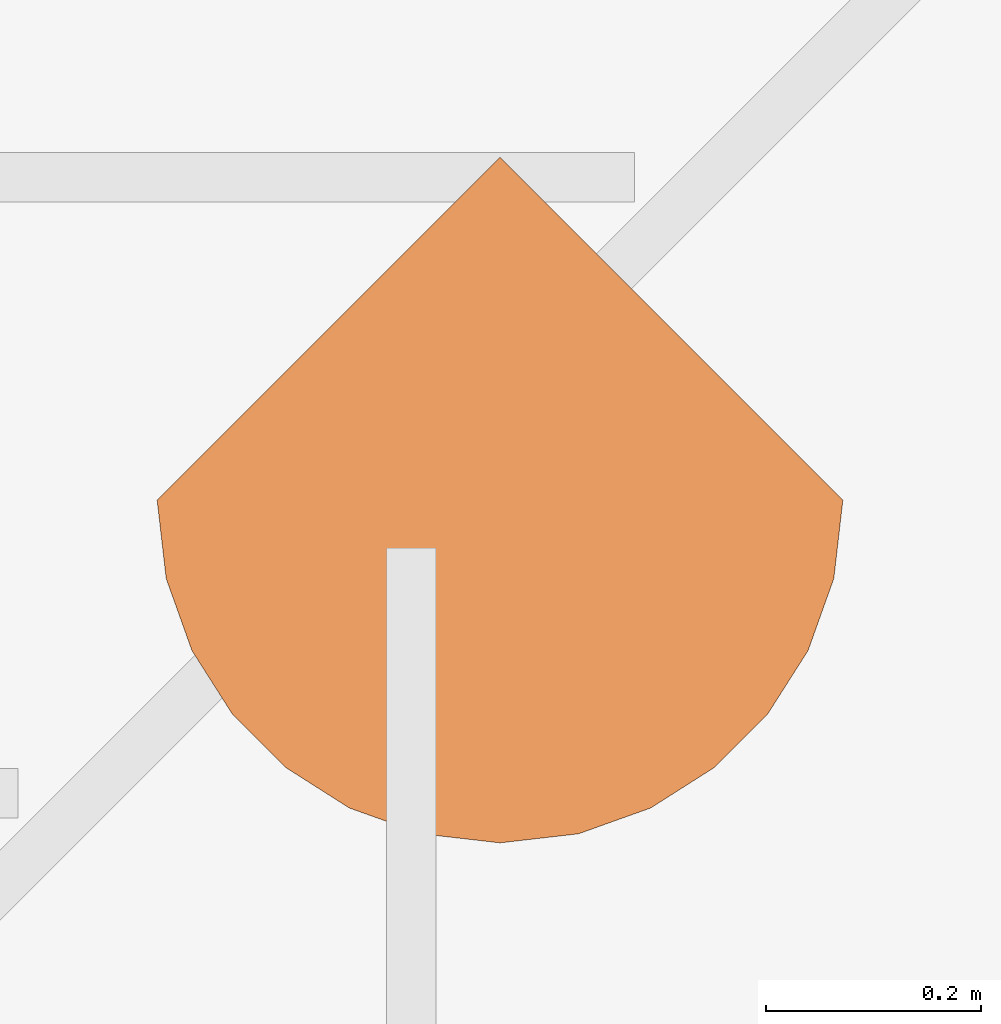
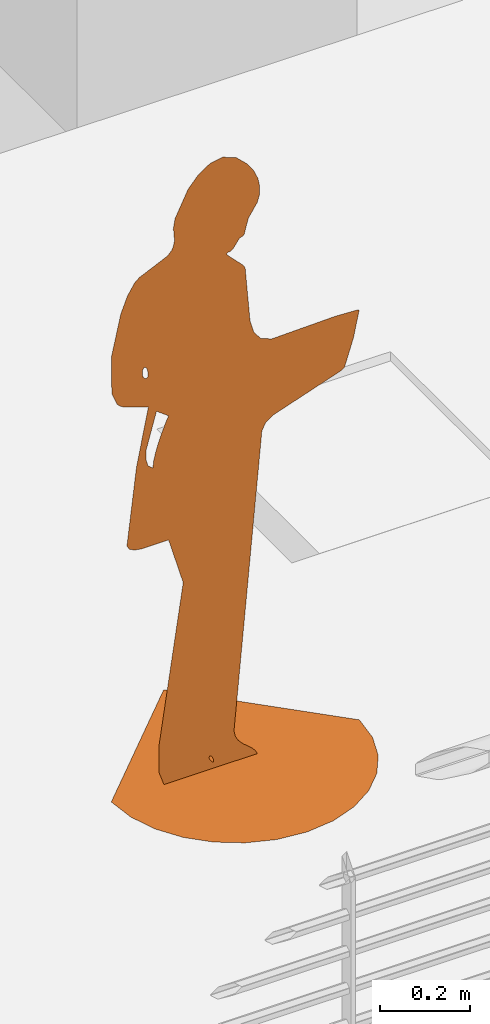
# One storey, part 13 of 15: 1 proxy.
"""IFC2X3 building model written with IfcOpenShell, lengths in metres."""

import ifcopenshell
import ifcopenshell.guid

model = None  # the IFC model being written
_history = None  # IfcOwnerHistory: only IFC2X3 demands one
_inside = {}  # id of a spatial element -> (the spatial element, [elements in it])
_under = {}  # id of a project, library or spatial element -> (it, [spatial elements below it])
_declared = {}  # id of a project -> (the project, [libraries it declares])
_typed = {}  # id of a type object -> (the type object, [elements of that type])
_made_of = {}  # id of a material, layer set ... -> (it, [elements and type objects made of it])


def new_model(schema):
    """Start an empty IFC model of exactly this schema.

    Asked for "IFC4X3", IfcOpenShell would pick the latest addendum, in which some entities
    have other attributes; the version numbers below select the first issue.
    IFC2X3 requires an IfcOwnerHistory on every rooted entity: one is made here for all.
    """
    global model, _history
    if schema == "IFC4X3":
        model = ifcopenshell.file(schema_version=(4, 3, 0, 0))
    else:
        model = ifcopenshell.file(schema=schema)
    _inside.clear()
    _under.clear()
    _declared.clear()
    _typed.clear()
    _made_of.clear()
    _history = None
    if model.schema == "IFC2X3":
        org = make("IfcOrganization", Name="unknown")
        user = make(
            "IfcPersonAndOrganization",
            ThePerson=make("IfcPerson", FamilyName="unknown"),
            TheOrganization=org,
        )
        app = make(
            "IfcApplication",
            ApplicationDeveloper=org,
            Version="unknown",
            ApplicationFullName="unknown",
            ApplicationIdentifier="unknown",
        )
        _history = make(
            "IfcOwnerHistory",
            OwningUser=user,
            OwningApplication=app,
            ChangeAction="ADDED",
            CreationDate=0,
        )
    return model


def make(cls, **values):
    """One entity of the class cls with the attributes given. An attribute that is None is left unset."""
    return model.create_entity(
        cls, **{name: value for name, value in values.items() if value is not None}
    )


def entity(cls, *values):
    """Any entity or typed value of the class cls, its attributes in the order of the schema. None: left unset."""
    e = model.create_entity(cls)
    for i, value in enumerate(values):
        if value is not None:
            e[i] = value
    return e


def rooted(cls, **values):
    """An entity with a GlobalId (a new one), such as an element, a storey or a relation."""
    return make(cls, GlobalId=ifcopenshell.guid.new(), OwnerHistory=_history, **values)


def si_unit(unit_type, name, prefix=None):
    """IfcSIUnit, for example si_unit("LENGTHUNIT", "METRE", prefix="MILLI")."""
    return make("IfcSIUnit", UnitType=unit_type, Prefix=prefix, Name=name)


def converted_unit(unit_type, name, factor, base, dimensions=None, offset=None):
    """IfcConversionBasedUnit, such as the inch: factor (a typed value) times the base unit."""
    return make(
        "IfcConversionBasedUnit"
        if offset is None
        else "IfcConversionBasedUnitWithOffset",
        ConversionOffset=offset,
        Dimensions=None
        if dimensions is None
        else entity("IfcDimensionalExponents", *dimensions),
        UnitType=unit_type,
        Name=name,
        ConversionFactor=make(
            "IfcMeasureWithUnit", ValueComponent=factor, UnitComponent=base
        ),
    )


def derived_unit(unit_type, elements):
    """IfcDerivedUnit: a product of units, each with its exponent."""
    return make(
        "IfcDerivedUnit",
        Elements=[
            make("IfcDerivedUnitElement", Unit=unit, Exponent=power)
            for unit, power in elements
        ],
        UnitType=unit_type,
    )


def assignment(units):
    """IfcUnitAssignment: the units of a project."""
    return None if units is None else make("IfcUnitAssignment", Units=units)


def point(xyz):
    """IfcCartesianPoint."""
    return None if xyz is None else make("IfcCartesianPoint", Coordinates=xyz)


def direction(xyz):
    """IfcDirection."""
    return None if xyz is None else make("IfcDirection", DirectionRatios=xyz)


def frame(location, z_axis=None, x_axis=None):
    """IfcAxis2Placement3D, a coordinate frame: its origin and axes. An axis left out is left unset."""
    return make(
        "IfcAxis2Placement3D",
        Location=point(location),
        Axis=direction(z_axis),
        RefDirection=direction(x_axis),
    )


def origin():
    """The frame at (0, 0, 0) with its axes left unset."""
    return frame((0.0, 0.0, 0.0))


def place(relative_to, where):
    """IfcLocalPlacement: puts the frame where relative to a parent placement (None: the world)."""
    return make(
        "IfcLocalPlacement", PlacementRelTo=relative_to, RelativePlacement=where
    )


def context(
    kind, dimensions, precision=None, world=None, true_north=None, identifier=None
):
    """IfcGeometricRepresentationContext, for example the 3D "Model" context."""
    return make(
        "IfcGeometricRepresentationContext",
        ContextIdentifier=identifier,
        ContextType=kind,
        CoordinateSpaceDimension=dimensions,
        Precision=precision,
        WorldCoordinateSystem=world,
        TrueNorth=true_north,
    )


def subcontext(parent, identifier, kind, view, scale=None):
    """IfcGeometricRepresentationSubContext, for example "Body" below "Model"."""
    return make(
        "IfcGeometricRepresentationSubContext",
        ContextIdentifier=identifier,
        ContextType=kind,
        ParentContext=parent,
        TargetScale=scale,
        TargetView=view,
    )


def project(units=None, contexts=None):
    """IfcProject with its units and contexts."""
    return rooted(
        "IfcProject",
        Name="project",
        RepresentationContexts=contexts,
        UnitsInContext=assignment(units),
    )


def spatial(cls, under=None, at=None, **own):
    """A site, building, storey or space (cls), placed at a placement, below another one or the project."""
    s = rooted(cls, ObjectPlacement=at, **own)
    if under is not None:
        _under.setdefault(under.id(), (under, []))[1].append(s)
    return s


def faces_of(points, faces, orient=None, outer=None):
    """IfcFace entities. A face is a list of loops; a loop is a list of indices into points, from 0.

    orient and outer hold one flag for each loop. By default every Orientation is true, the
    first loop of a face is its IfcFaceOuterBound and the others are IfcFaceBound.
    """
    made = []
    for i, loops in enumerate(faces):
        bounds = []
        for j, loop in enumerate(loops):
            is_outer = j == 0 if outer is None else outer[i][j]
            bounds.append(
                make(
                    "IfcFaceOuterBound" if is_outer else "IfcFaceBound",
                    Bound=make("IfcPolyLoop", Polygon=[points[k] for k in loop]),
                    Orientation=True if orient is None else orient[i][j],
                )
            )
        made.append(make("IfcFace", Bounds=bounds))
    return made


def face_set(faces, orient=None, outer=None):
    """The faces of one IfcConnectedFaceSet. surface_model builds it on its shared points."""
    return ("IfcConnectedFaceSet", faces, orient, outer)


def surface_model(cls, points, shells):
    """IfcFaceBasedSurfaceModel or IfcShellBasedSurfaceModel (cls): surfaces that need not close."""
    shared = [point(p) for p in points]
    made = [make(c, CfsFaces=faces_of(shared, fs, o, b)) for c, fs, o, b in shells]
    if cls == "IfcFaceBasedSurfaceModel":
        return make(cls, FbsmFaces=made)
    return make(cls, SbsmBoundary=made)


def shape(context_of_items, identifier, shape_type, items):
    """IfcShapeRepresentation: the items that make up one representation, for example the "Body"."""
    return make(
        "IfcShapeRepresentation",
        ContextOfItems=context_of_items,
        RepresentationIdentifier=identifier,
        RepresentationType=shape_type,
        Items=items,
    )


def source(mapping_origin, context_of_items, identifier, shape_type, items):
    """IfcRepresentationMap: a shape defined once, which mapped items show again and again."""
    return make(
        "IfcRepresentationMap",
        MappingOrigin=mapping_origin,
        MappedRepresentation=shape(context_of_items, identifier, shape_type, items),
    )


def transform(
    local_origin,
    x_axis=None,
    y_axis=None,
    z_axis=None,
    scale=None,
    scale2=None,
    scale3=None,
    uniform=True,
):
    """IfcCartesianTransformationOperator3D, or its non-uniform kind. x_axis, y_axis, z_axis: its Axis1, 2, 3."""
    if uniform:
        return make(
            "IfcCartesianTransformationOperator3D",
            Axis1=direction(x_axis),
            Axis2=direction(y_axis),
            LocalOrigin=point(local_origin),
            Scale=scale,
            Axis3=direction(z_axis),
        )
    return make(
        "IfcCartesianTransformationOperator3DnonUniform",
        Axis1=direction(x_axis),
        Axis2=direction(y_axis),
        LocalOrigin=point(local_origin),
        Scale=scale,
        Axis3=direction(z_axis),
        Scale2=scale2,
        Scale3=scale3,
    )


def mapped(mapping_source, mapping_target):
    """IfcMappedItem: shows the shape of a source again, moved by a transform."""
    return make(
        "IfcMappedItem", MappingSource=mapping_source, MappingTarget=mapping_target
    )


def material(Name=None, Category=None):
    """IfcMaterial."""
    return make("IfcMaterial", Name=Name, Category=Category)


def made_of(thing, what):
    """Note that an element or type object is made of a material, layer set ...; save() writes the relation."""
    if what is not None:
        _made_of.setdefault(what.id(), (what, []))[1].append(thing)
    return thing


def type_object(cls, material=None, **own):
    """A type object (cls), such as IfcWallType, which elements share."""
    return made_of(rooted(cls, **own), material)


def type_shapes(of_type, sources):
    """Give a type object the sources (RepresentationMaps) that its elements show as mapped items."""
    of_type.RepresentationMaps = sources


def element(
    cls,
    number,
    at=None,
    inside=None,
    cuts=None,
    type_object=None,
    material=None,
    context=None,
    identifier="Body",
    shape_type=None,
    held_by="IfcProductDefinitionShape",
    body=None,
    shapes=None,
    **own,
):
    """One element of the class cls, such as IfcWall. Its Tag is "e" and its number.

    at: its placement. inside: the storey or other place that contains it. cuts: it is an
    opening in that element (IfcRelVoidsElement). A single representation is given by context,
    identifier, shape_type and body (its items); several are given by shapes. held_by: the class
    of the entity that holds the representations. save() writes the other relations.
    """
    e = rooted(cls, Tag="e%d" % number, ObjectPlacement=at, **own)
    if body is not None:
        shapes = [shape(context, identifier, shape_type, body)]
    if shapes is not None:
        e.Representation = make(held_by, Representations=shapes)
    if inside is not None:
        _inside.setdefault(inside.id(), (inside, []))[1].append(e)
    if cuts is not None:
        rooted(
            "IfcRelVoidsElement", RelatingBuildingElement=cuts, RelatedOpeningElement=e
        )
    if type_object is not None:
        _typed.setdefault(type_object.id(), (type_object, []))[1].append(e)
    return made_of(e, material)


def aggregate(whole, parts):
    """IfcRelAggregates: a whole, such as a stair, and the parts it consists of."""
    return rooted("IfcRelAggregates", RelatingObject=whole, RelatedObjects=parts)


def save(model, path):
    """Write the relations noted so far, then the file.

    IfcRelAggregates (storeys below a building ...), IfcRelContainedInSpatialStructure (elements
    in a storey), IfcRelDefinesByType, IfcRelAssociatesMaterial and IfcRelDeclares: one each for
    every whole, place, type object, material and project.
    """
    for whole, parts in _under.values():
        aggregate(whole, parts)
    for where, things in _inside.values():
        rooted(
            "IfcRelContainedInSpatialStructure",
            RelatedElements=things,
            RelatingStructure=where,
        )
    for kind, things in _typed.values():
        rooted("IfcRelDefinesByType", RelatedObjects=things, RelatingType=kind)
    for what, things in _made_of.values():
        rooted("IfcRelAssociatesMaterial", RelatedObjects=things, RelatingMaterial=what)
    for by, libraries in _declared.values():
        rooted("IfcRelDeclares", RelatingContext=by, RelatedDefinitions=libraries)
    model.write(path)


model = new_model("IFC2X3")

# Units and contexts
model_context = context("Model", 3, precision=1e-05, world=origin(), true_north=direction((6.12303176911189e-17, 1.0)))
body_context = subcontext(model_context, "Body", "Model", "MODEL_VIEW")
ifc_project = project(units=[si_unit("LENGTHUNIT", "METRE"), si_unit("AREAUNIT", "SQUARE_METRE"), si_unit("VOLUMEUNIT", "CUBIC_METRE"), converted_unit("PLANEANGLEUNIT", "DEGREE", entity("IfcRatioMeasure", 0.0174532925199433), si_unit("PLANEANGLEUNIT", "RADIAN"), dimensions=[0, 0, 0, 0, 0, 0, 0]), si_unit("MASSUNIT", "GRAM", prefix="KILO"), derived_unit("MASSDENSITYUNIT", [(si_unit("MASSUNIT", "GRAM", prefix="KILO"), 1), (si_unit("LENGTHUNIT", "METRE"), -3)]), derived_unit("MOMENTOFINERTIAUNIT", [(si_unit("LENGTHUNIT", "METRE"), 4)]), si_unit("TIMEUNIT", "SECOND"), si_unit("FREQUENCYUNIT", "HERTZ"), si_unit("THERMODYNAMICTEMPERATUREUNIT", "DEGREE_CELSIUS"), derived_unit("THERMALTRANSMITTANCEUNIT", [(si_unit("MASSUNIT", "GRAM", prefix="KILO"), 1), (si_unit("THERMODYNAMICTEMPERATUREUNIT", "KELVIN"), -1), (si_unit("TIMEUNIT", "SECOND"), -3)]), derived_unit("VOLUMETRICFLOWRATEUNIT", [(si_unit("LENGTHUNIT", "METRE"), 3), (si_unit("TIMEUNIT", "SECOND"), -1)]), si_unit("ELECTRICCURRENTUNIT", "AMPERE"), si_unit("ELECTRICVOLTAGEUNIT", "VOLT"), si_unit("POWERUNIT", "WATT"), si_unit("FORCEUNIT", "NEWTON", prefix="KILO"), si_unit("ILLUMINANCEUNIT", "LUX"), si_unit("LUMINOUSFLUXUNIT", "LUMEN"), si_unit("LUMINOUSINTENSITYUNIT", "CANDELA"), derived_unit("USERDEFINED", [(si_unit("MASSUNIT", "GRAM", prefix="KILO"), -1), (si_unit("LENGTHUNIT", "METRE"), -2), (si_unit("TIMEUNIT", "SECOND"), 3), (si_unit("LUMINOUSFLUXUNIT", "LUMEN"), 1)]), derived_unit("LINEARVELOCITYUNIT", [(si_unit("LENGTHUNIT", "METRE"), 1), (si_unit("TIMEUNIT", "SECOND"), -1)]), si_unit("PRESSUREUNIT", "PASCAL"), derived_unit("USERDEFINED", [(si_unit("LENGTHUNIT", "METRE"), -2), (si_unit("MASSUNIT", "GRAM", prefix="KILO"), 1), (si_unit("TIMEUNIT", "SECOND"), -2)]), derived_unit("LINEARFORCEUNIT", [(si_unit("MASSUNIT", "GRAM", prefix="KILO"), 1), (si_unit("LENGTHUNIT", "METRE"), 1), (si_unit("TIMEUNIT", "SECOND"), -2), (si_unit("LENGTHUNIT", "METRE"), -1)]), derived_unit("PLANARFORCEUNIT", [(si_unit("MASSUNIT", "GRAM", prefix="KILO"), 1), (si_unit("LENGTHUNIT", "METRE"), 1), (si_unit("TIMEUNIT", "SECOND"), -2), (si_unit("LENGTHUNIT", "METRE"), -2)])], contexts=[model_context])

# Site, building, storey
site_placement = place(None, origin())
site = spatial("IfcSite", under=ifc_project, at=site_placement, Name="Surface", CompositionType="ELEMENT")
building_placement = place(site_placement, origin())
building = spatial("IfcBuilding", under=site, at=building_placement, CompositionType="ELEMENT")
storey_placement = place(building_placement, frame((0.0, 0.0, 2.65)))
storey = spatial("IfcBuildingStorey", under=building, at=storey_placement, Name="Niveau étage", CompositionType="ELEMENT", Elevation=2.65)

# Proxy
ifc_material = material(Name="<Unnamed>")
building_element_proxy_type = type_object("IfcBuildingElementProxyType", Name="RPC Femme:Lisa", PredefinedType="NOTDEFINED", material=ifc_material)
shared_shape = source(origin(), body_context, "Body", "SurfaceModel", [
    surface_model("IfcFaceBasedSurfaceModel", [(0.318654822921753, 2.78576924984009e-08, 4.24172741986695e-08), (-4.17865344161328e-08, 0.318654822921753, 4.24172741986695e-08), (-0.318654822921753, 0.0, 4.24172741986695e-08), (0.310230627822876, -0.0730145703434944, 4.24172741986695e-08), (-0.310230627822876, -0.0730146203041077, 4.24172741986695e-08), (0.286238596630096, -0.140066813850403, 4.24172741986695e-08), (-0.286238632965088, -0.14006686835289, 4.24172741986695e-08), (-0.248599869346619, -0.199235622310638, 4.24172741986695e-08), (0.248599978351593, -0.199235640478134, 4.24172741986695e-08), (0.199235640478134, -0.248599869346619, 4.24172741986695e-08), (-0.199235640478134, -0.248599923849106, 4.24172741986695e-08), (-0.140066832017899, -0.286238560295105, 4.24172741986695e-08), (-0.0730145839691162, -0.310230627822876, 4.24172741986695e-08), (1.39288462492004e-08, -0.318654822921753, 4.24172741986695e-08), (0.0730146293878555, -0.310230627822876, 4.24172741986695e-08), (0.140066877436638, -0.286238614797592, 4.24172741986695e-08), (-0.211632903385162, 4.18688860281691e-07, 0.86958950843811), (-0.133775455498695, -2.28444324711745e-06, 0.531148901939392), (-0.171402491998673, -1.25225027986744e-06, 0.660382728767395), (-0.174873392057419, 1.37999741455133e-06, 0.989948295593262), (-0.171280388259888, 1.43756228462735e-06, 0.997155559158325), (-0.0645414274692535, -6.23517512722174e-06, 0.0365050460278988), (-0.181166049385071, 1.2656338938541e-06, 0.975629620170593), (-0.188972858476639, 1.11095285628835e-06, 0.956263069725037), (0.0516611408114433, -6.44441624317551e-06, 0.0103074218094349), (0.0564128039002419, -6.52674214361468e-06, 0.0), (-0.183261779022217, -6.52674214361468e-06, 0.0), (0.042646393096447, -6.36638715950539e-06, 0.0200769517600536), (-0.233749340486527, 2.42748774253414e-06, 1.12109733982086), (-0.228229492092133, 2.40965013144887e-06, 1.11886397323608), (-0.22322620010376, 1.77577831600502e-06, 1.03950130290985), (-0.241853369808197, -1.25381847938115e-06, 0.660186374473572), (-0.258831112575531, -1.22941754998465e-06, 0.663241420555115), (-0.271669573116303, -1.17811702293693e-06, 0.669664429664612), (-0.278426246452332, -1.09142624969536e-06, 0.68051834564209), (-0.253934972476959, 5.4655446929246e-07, 0.885598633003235), (-0.224559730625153, 5.03259847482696e-07, 0.880177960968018), (-0.229693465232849, 6.60111227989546e-07, 0.899816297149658), (-0.22886419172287, 8.63417954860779e-07, 0.925270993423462), (-0.202521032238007, 1.62470223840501e-06, 1.02058610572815), (-0.285405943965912, 1.94348737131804e-06, 1.06049893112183), (-0.295989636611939, 1.99623259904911e-06, 1.0671027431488), (-0.303727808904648, 2.05811147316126e-06, 1.07485023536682), (-0.317308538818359, 2.33260377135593e-06, 1.10921746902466), (-0.237153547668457, 2.46397603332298e-06, 1.12566573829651), (-0.23876551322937, 2.51163382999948e-06, 1.13163267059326), (-0.238908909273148, 2.56298328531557e-06, 1.13806178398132), (-0.237907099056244, 2.61054183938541e-06, 1.14401621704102), (-0.317994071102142, 3.13314370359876e-06, 1.20944754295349), (-0.236083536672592, 2.646829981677e-06, 1.14855961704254), (-0.233761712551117, 2.66436820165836e-06, 1.15075555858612), (-0.225250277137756, 2.42301849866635e-06, 1.12053770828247), (-0.0627427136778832, -6.24094838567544e-06, 0.035782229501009), (-0.066984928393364, -6.2499689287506e-06, 0.034652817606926), (-0.294042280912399, 3.99015323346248e-06, 1.31674797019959), (-0.230288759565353, 2.65538591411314e-06, 1.1496309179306), (0.317035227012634, 2.36809215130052e-06, 1.11366080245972), (0.317668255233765, 2.36430014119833e-06, 1.11318597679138), (0.317994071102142, 2.36026584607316e-06, 1.11268092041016), (0.31348046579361, 2.37804718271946e-06, 1.11490716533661), (0.303952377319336, 1.81530806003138e-06, 1.04445056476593), (0.255927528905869, 2.40043276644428e-06, 1.11770997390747), (0.280753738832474, 1.23499315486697e-06, 0.971793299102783), (0.27324831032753, 1.18284393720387e-06, 0.965264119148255), (0.0939398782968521, 2.36546443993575e-06, 1.1133317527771), (0.0985043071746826, 7.07794528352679e-07, 0.905786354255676), (0.0648742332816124, 2.45548635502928e-06, 1.12460279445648), (0.0771590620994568, 5.85066560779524e-07, 0.89042043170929), (-0.276826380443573, 4.33523169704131e-06, 1.35995274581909), (-0.258249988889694, 4.56890589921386e-06, 1.38920953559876), (-0.246257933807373, 4.64888296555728e-06, 1.39922287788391), (-0.17419383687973, 4.91311113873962e-06, 1.43230501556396), (-0.227347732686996, 2.62045972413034e-06, 1.145257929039), (-0.2238898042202, 2.46086874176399e-06, 1.12527673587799), (-0.0606268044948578, -6.26122326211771e-06, 0.0332437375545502), (0.0471253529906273, 2.64929690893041e-06, 1.14886853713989), (0.0682314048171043, 4.39482785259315e-07, 0.87219298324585), (-0.163307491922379, 5.00621678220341e-06, 1.44396215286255), (-0.065059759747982, 6.61297509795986e-06, 1.64513330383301), (-0.0320003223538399, 6.65984033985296e-06, 1.65100096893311), (0.00246410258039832, 6.55177345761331e-06, 1.63747054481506), (-0.0952937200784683, 6.45076555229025e-06, 1.62482407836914), (0.0289675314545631, 6.35039246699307e-06, 1.61225711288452), (-0.121281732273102, 6.21280174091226e-06, 1.59503040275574), (0.047236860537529, 6.14530346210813e-06, 1.58657946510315), (0.058191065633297, 5.94359036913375e-06, 1.56132432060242), (0.0627491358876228, 5.7523365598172e-06, 1.53737854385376), (0.0618300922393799, 5.57862651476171e-06, 1.51562972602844), (0.0563528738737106, 5.42954249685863e-06, 1.49696385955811), (-0.154837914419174, 5.66796870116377e-06, 1.52681567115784), (0.0332519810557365, 5.14997274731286e-06, 1.46196090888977), (-0.159565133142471, 5.44027788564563e-06, 1.49830796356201), (-0.15723640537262, 5.3901814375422e-06, 1.49203567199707), (-0.156608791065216, 5.18203531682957e-06, 1.46597519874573), (0.0230950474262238, 4.84034357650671e-06, 1.42319437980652), (0.0216613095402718, 4.82252426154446e-06, 1.42096326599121), (0.0209385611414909, 4.8135408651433e-06, 1.41983847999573), (0.0204209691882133, 4.80985391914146e-06, 1.41937688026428), (0.0196026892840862, 4.80792173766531e-06, 1.41913488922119), (0.0179778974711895, 4.80420762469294e-06, 1.41866994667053), (0.015040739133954, 4.79516878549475e-06, 1.41753832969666), (0.0102853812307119, 4.77726686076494e-06, 1.41529689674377), (-0.158168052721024, 5.11227441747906e-06, 1.45724084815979), (-0.00552967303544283, 4.60236368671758e-06, 1.39339852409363), (-0.00913058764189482, 4.57753501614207e-06, 1.3902898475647), (-0.0138403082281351, 4.56198081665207e-06, 1.38834243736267), (-0.0202838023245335, 4.55656156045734e-06, 1.38766399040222), (-0.0231512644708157, 4.53969974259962e-06, 1.38555292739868), (-0.16043608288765, 5.0517780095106e-06, 1.44966660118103), (-0.019312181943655, 4.49289992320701e-06, 1.3796932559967), (0.0201347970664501, 4.16976488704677e-06, 1.3392358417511), (0.0252754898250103, 4.09585769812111e-06, 1.32998248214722), (0.0377544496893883, 2.91605715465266e-06, 1.18226773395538), (-0.225155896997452, 2.56967439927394e-06, 1.13889945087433), (-0.00336177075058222, -5.8615466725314e-06, 0.0832845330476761), (-3.6687809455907e-05, -5.99486996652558e-06, 0.066592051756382), (-0.0585206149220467, -6.29060129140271e-06, 0.0295655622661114), (0.00802700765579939, -6.10689657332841e-06, 0.0525659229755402), (-0.0556450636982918, -6.3550618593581e-06, 0.0214948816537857), (0.0190289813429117, -6.20274663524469e-06, 0.0405652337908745), (-0.0555294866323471, -6.37934469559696e-06, 0.0184546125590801), (-0.0567312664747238, -6.39112573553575e-06, 0.0169795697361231), (-0.0586376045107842, -6.38577550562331e-06, 0.0176494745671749), (-0.0612032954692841, -6.36664496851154e-06, 0.0200446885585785), (-0.0660977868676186, -6.30657214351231e-06, 0.0275659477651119), (-0.0673191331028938, -6.27539554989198e-06, 0.0314693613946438), (-0.196662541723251, -6.21638168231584e-06, 0.0388580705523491), (-0.19543543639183, -5.61610806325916e-06, 0.114014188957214), (-0.209623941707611, 5.69822840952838e-07, 0.88851189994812), (-0.204387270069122, 7.46565884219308e-07, 0.910640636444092), (-0.197108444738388, 9.32436544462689e-07, 0.933912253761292)], [face_set([[[0, 1, 2]], [[3, 0, 2]], [[3, 2, 4]], [[5, 3, 4]], [[5, 4, 6]], [[5, 6, 7]], [[8, 5, 7]], [[9, 8, 7]], [[9, 7, 10]], [[9, 10, 11]], [[9, 11, 12]], [[9, 12, 13]], [[9, 13, 14]], [[9, 14, 15]], [[16, 17, 18]], [[19, 20, 21]], [[22, 19, 21]], [[23, 22, 21]], [[24, 25, 26]], [[27, 24, 26]], [[28, 29, 30]], [[16, 18, 31]], [[16, 31, 32]], [[16, 32, 33]], [[16, 33, 34]], [[16, 34, 35]], [[36, 16, 35]], [[37, 36, 35]], [[38, 37, 35]], [[39, 38, 35]], [[39, 35, 30]], [[28, 30, 40]], [[28, 40, 41]], [[28, 41, 42]], [[28, 42, 43]], [[44, 28, 43]], [[45, 44, 43]], [[46, 45, 43]], [[47, 46, 43]], [[47, 43, 48]], [[49, 47, 48]], [[50, 49, 48]], [[30, 29, 51]], [[52, 21, 20]], [[23, 21, 53]], [[50, 48, 54]], [[55, 50, 54]], [[39, 30, 51]], [[56, 57, 58]], [[59, 56, 58]], [[59, 58, 60]], [[61, 59, 60]], [[61, 60, 62]], [[61, 62, 63]], [[64, 61, 63]], [[64, 63, 65]], [[66, 64, 65]], [[66, 65, 67]], [[55, 54, 68]], [[55, 68, 69]], [[55, 69, 70]], [[55, 70, 71]], [[72, 55, 71]], [[20, 39, 51]], [[20, 51, 73]], [[74, 52, 20]], [[75, 66, 67]], [[75, 67, 76]], [[72, 71, 77]], [[78, 79, 80]], [[81, 78, 80]], [[81, 80, 82]], [[83, 81, 82]], [[83, 82, 84]], [[83, 84, 85]], [[83, 85, 86]], [[83, 86, 87]], [[83, 87, 88]], [[89, 83, 88]], [[89, 88, 90]], [[91, 89, 90]], [[92, 91, 90]], [[93, 92, 90]], [[93, 90, 94]], [[93, 94, 95]], [[93, 95, 96]], [[93, 96, 97]], [[93, 97, 98]], [[93, 98, 99]], [[93, 99, 100]], [[93, 100, 101]], [[102, 93, 101]], [[102, 101, 103]], [[102, 103, 104]], [[102, 104, 105]], [[102, 105, 106]], [[102, 106, 107]], [[108, 102, 107]], [[77, 108, 107]], [[72, 77, 107]], [[72, 107, 109]], [[72, 109, 110]], [[72, 110, 111]], [[72, 111, 112]], [[113, 72, 112]], [[73, 113, 112]], [[73, 112, 75]], [[73, 75, 76]], [[20, 73, 76]], [[74, 20, 76]], [[74, 76, 114]], [[74, 114, 115]], [[116, 74, 115]], [[116, 115, 117]], [[118, 116, 117]], [[118, 117, 119]], [[120, 118, 119]], [[120, 119, 27]], [[121, 120, 27]], [[121, 27, 26]], [[122, 121, 26]], [[123, 122, 26]], [[124, 123, 26]], [[125, 124, 26]], [[125, 26, 126]], [[125, 126, 127]], [[53, 125, 127]], [[17, 16, 128]], [[17, 128, 129]], [[17, 129, 130]], [[17, 130, 23]], [[17, 23, 53]], [[17, 53, 127]]])]),
])
type_shapes(building_element_proxy_type, [shared_shape])
proxy_placement = place(storey_placement, frame((0.961799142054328, -1.44274189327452, 0.0400000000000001)))
element("IfcBuildingElementProxy", 1, at=proxy_placement, inside=storey, type_object=building_element_proxy_type, material=ifc_material, Name="RPC Femme:Lisa", ObjectType="RPC Femme:Lisa", context=body_context, shape_type="MappedRepresentation", body=[
    mapped(shared_shape, transform((0.0, 0.0, 0.0), scale=1.0)),
])

save(model, "model.ifc")
